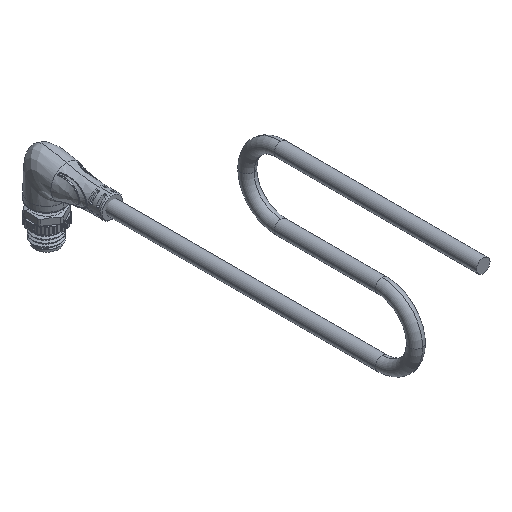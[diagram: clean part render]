
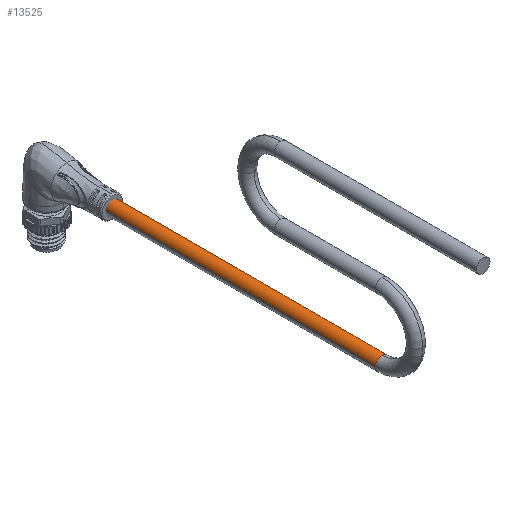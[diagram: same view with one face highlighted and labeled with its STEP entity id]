
A CAD part, isometric view. The second image highlights one B-rep face of the part: STEP entity #13525.
In plain terms, the highlighted cylindrical face has radius 2 mm (diameter 4 mm), a partial arc.
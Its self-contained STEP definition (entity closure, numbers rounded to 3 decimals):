
#1251 = ORIENTED_EDGE ( 'NONE', *, *, #21657, .F. ) ;
#1369 = VERTEX_POINT ( 'NONE', #6631 ) ;
#2486 = VERTEX_POINT ( 'NONE', #29017 ) ;
#3214 = DIRECTION ( 'NONE',  ( 0., 0., -1. ) ) ;
#5508 = CIRCLE ( 'NONE', #23791, 2. ) ;
#6631 = CARTESIAN_POINT ( 'NONE',  ( -2., 40., -90. ) ) ;
#7522 = CARTESIAN_POINT ( 'NONE',  ( 0., 40., 0. ) ) ;
#7808 = VERTEX_POINT ( 'NONE', #21038 ) ;
#7979 = CARTESIAN_POINT ( 'NONE',  ( 2., 40., 0. ) ) ;
#8037 = CARTESIAN_POINT ( 'NONE',  ( 0., 40., 0. ) ) ;
#8198 = DIRECTION ( 'NONE',  ( 0., 0., -1. ) ) ;
#8772 = CARTESIAN_POINT ( 'NONE',  ( 0., 40., 0. ) ) ;
#9265 = CARTESIAN_POINT ( 'NONE',  ( -2., 40., 0. ) ) ;
#10569 = ORIENTED_EDGE ( 'NONE', *, *, #23923, .T. ) ;
#10648 = CARTESIAN_POINT ( 'NONE',  ( -2., 40., 0. ) ) ;
#10940 = DIRECTION ( 'NONE',  ( 0., 0., -1. ) ) ;
#11332 = VERTEX_POINT ( 'NONE', #20263 ) ;
#11806 = VECTOR ( 'NONE', #3214, 1000. ) ;
#13195 = ORIENTED_EDGE ( 'NONE', *, *, #31220, .F. ) ;
#13240 = CARTESIAN_POINT ( 'NONE',  ( 0., 40., -90. ) ) ;
#13271 = ORIENTED_EDGE ( 'NONE', *, *, #21053, .T. ) ;
#13525 = ADVANCED_FACE ( 'NONE', ( #31234 ), #16298, .T. ) ;
#14730 = DIRECTION ( 'NONE',  ( 0., 0., -1. ) ) ;
#16298 = CYLINDRICAL_SURFACE ( 'NONE', #31076, 2. ) ;
#17507 = DIRECTION ( 'NONE',  ( -1., 0., 0. ) ) ;
#18237 = CIRCLE ( 'NONE', #28695, 2. ) ;
#18751 = DIRECTION ( 'NONE',  ( 0., 0., -1. ) ) ;
#19090 = DIRECTION ( 'NONE',  ( 0., 0., -1. ) ) ;
#20263 = CARTESIAN_POINT ( 'NONE',  ( 2., 40., 0. ) ) ;
#21038 = CARTESIAN_POINT ( 'NONE',  ( 2., 40., -90. ) ) ;
#21046 = VERTEX_POINT ( 'NONE', #10648 ) ;
#21053 = EDGE_CURVE ( 'NONE', #11332, #2486, #5508, .T. ) ;
#21657 = EDGE_CURVE ( 'NONE', #11332, #7808, #28452, .T. ) ;
#23260 = DIRECTION ( 'NONE',  ( -1., 0., 0. ) ) ;
#23791 = AXIS2_PLACEMENT_3D ( 'NONE', #8037, #8198, #23260 ) ;
#23923 = EDGE_CURVE ( 'NONE', #21046, #1369, #26303, .T. ) ;
#25301 = ORIENTED_EDGE ( 'NONE', *, *, #29555, .T. ) ;
#25859 = DIRECTION ( 'NONE',  ( -1., 0., 0. ) ) ;
#26303 = LINE ( 'NONE', #9265, #31238 ) ;
#28452 = LINE ( 'NONE', #7979, #11806 ) ;
#28695 = AXIS2_PLACEMENT_3D ( 'NONE', #7522, #14730, #17507 ) ;
#28769 = DIRECTION ( 'NONE',  ( -1., 0., 0. ) ) ;
#29017 = CARTESIAN_POINT ( 'NONE',  ( 0., 38., 0. ) ) ;
#29301 = CIRCLE ( 'NONE', #31384, 2. ) ;
#29555 = EDGE_CURVE ( 'NONE', #2486, #21046, #18237, .T. ) ;
#31076 = AXIS2_PLACEMENT_3D ( 'NONE', #8772, #18751, #28769 ) ;
#31220 = EDGE_CURVE ( 'NONE', #7808, #1369, #29301, .T. ) ;
#31234 = FACE_OUTER_BOUND ( 'NONE', #32022, .T. ) ;
#31238 = VECTOR ( 'NONE', #19090, 1000. ) ;
#31384 = AXIS2_PLACEMENT_3D ( 'NONE', #13240, #10940, #25859 ) ;
#32022 = EDGE_LOOP ( 'NONE', ( #1251, #13271, #25301, #10569, #13195 ) ) ;
